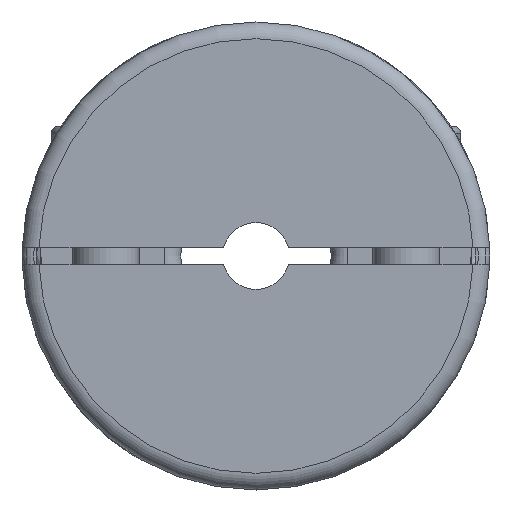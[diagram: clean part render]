
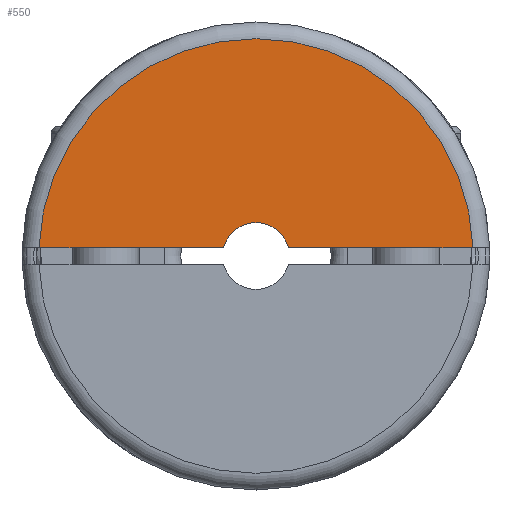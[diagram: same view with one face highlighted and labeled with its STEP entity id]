
A CAD part, left-side view. The second image highlights one B-rep face of the part: STEP entity #550.
In plain terms, the highlighted planar face has unit normal (-1, 0, 0).
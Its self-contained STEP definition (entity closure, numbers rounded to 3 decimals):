
#550 = ADVANCED_FACE( '', ( #1295 ), #1296, .F. );
#1295 = FACE_OUTER_BOUND( '', #2220, .T. );
#1296 = PLANE( '', #2221 );
#2220 = EDGE_LOOP( '', ( #3591, #3592, #3593, #3594 ) );
#2221 = AXIS2_PLACEMENT_3D( '', #3595, #3596, #3597 );
#3591 = ORIENTED_EDGE( '', *, *, #4388, .F. );
#3592 = ORIENTED_EDGE( '', *, *, #4793, .F. );
#3593 = ORIENTED_EDGE( '', *, *, #4610, .T. );
#3594 = ORIENTED_EDGE( '', *, *, #4794, .F. );
#3595 = CARTESIAN_POINT( '', ( -307., 0., 4. ) );
#3596 = DIRECTION( '', ( 1., 0., 0. ) );
#3597 = DIRECTION( '', ( 0., 1., 0. ) );
#4388 = EDGE_CURVE( '', #5033, #5036, #5037, .T. );
#4610 = EDGE_CURVE( '', #5399, #5403, #5405, .T. );
#4793 = EDGE_CURVE( '', #5399, #5033, #5665, .T. );
#4794 = EDGE_CURVE( '', #5036, #5403, #5666, .T. );
#5033 = VERTEX_POINT( '', #6085 );
#5036 = VERTEX_POINT( '', #6101 );
#5037 = CIRCLE( '', #6102, 26. );
#5399 = VERTEX_POINT( '', #6891 );
#5403 = VERTEX_POINT( '', #6896 );
#5405 = CIRCLE( '', #6899, 4. );
#5665 = LINE( '', #7280, #7281 );
#5666 = LINE( '', #7282, #7283 );
#6085 = CARTESIAN_POINT( '', ( -307., 25.981, 1. ) );
#6101 = CARTESIAN_POINT( '', ( -307., -25.981, 1. ) );
#6102 = AXIS2_PLACEMENT_3D( '', #7798, #7799, #7800 );
#6891 = CARTESIAN_POINT( '', ( -307., 3.873, 1. ) );
#6896 = CARTESIAN_POINT( '', ( -307., -3.873, 1. ) );
#6899 = AXIS2_PLACEMENT_3D( '', #8132, #8133, #8134 );
#7280 = CARTESIAN_POINT( '', ( -307., 0., 1. ) );
#7281 = VECTOR( '', #8356, 1000. );
#7282 = CARTESIAN_POINT( '', ( -307., 0., 1. ) );
#7283 = VECTOR( '', #8357, 1000. );
#7798 = CARTESIAN_POINT( '', ( -307., 0., 0. ) );
#7799 = DIRECTION( '', ( 1., 0., 0. ) );
#7800 = DIRECTION( '', ( 0., 0., 1. ) );
#8132 = CARTESIAN_POINT( '', ( -307., 0., 0. ) );
#8133 = DIRECTION( '', ( 1., 0., 0. ) );
#8134 = DIRECTION( '', ( 0., 0., 1. ) );
#8356 = DIRECTION( '', ( 0., 1., 0. ) );
#8357 = DIRECTION( '', ( 0., 1., 0. ) );
